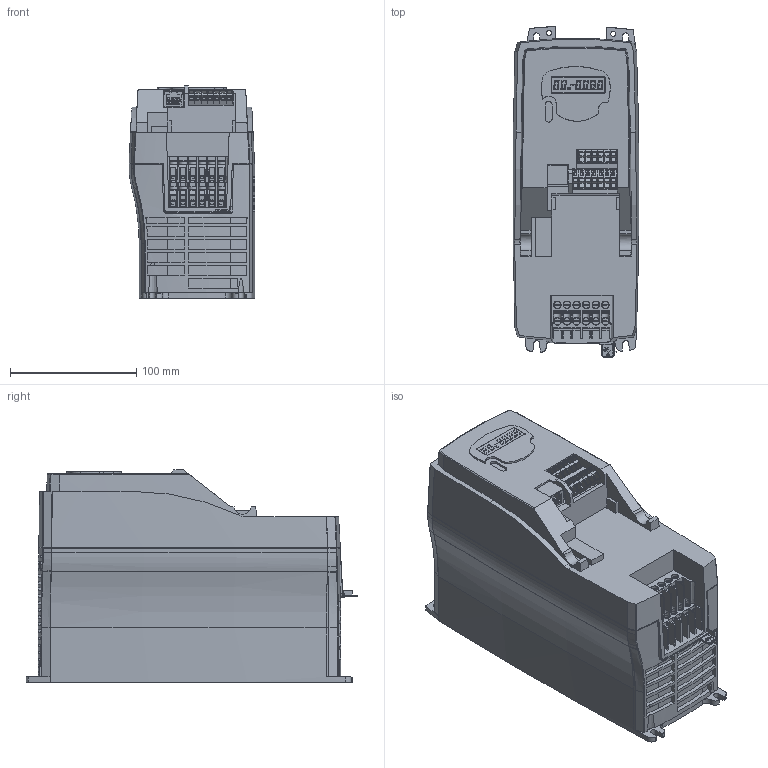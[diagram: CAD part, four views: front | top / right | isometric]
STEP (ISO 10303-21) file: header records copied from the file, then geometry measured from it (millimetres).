
FILE_DESCRIPTION((''),'2;1');
FILE_NAME('PK-SEQ-SK-C-BODY-NO-LOGISTICK','2006-12-19T',('summne01'),(''),'PRO/ENGINEER BY PARAMETRIC TECHNOLOGY CORPORATION, 2006320','PRO/ENGINEER BY PARAMETRIC TECHNOLOGY CORPORATION, 2006320','');
FILE_SCHEMA(('CONFIG_CONTROL_DESIGN'));
Length unit declared in the file: millimetre
Products named in the file (1): PK-SEQ-SK-C-BODY-NO-LOGISTICK
Bounding box: 99.9 x 262.71 x 168.25 mm (x, y, z)
Surface area: 333622.2 mm2 (no closed solid volume)
Topology: 0 solids, 244 shells, 2256 faces, 8961 edges, 6713 vertices
Faces by surface type: plane 1605, cylinder 531, cone 57, bspline 35, torus 25, sphere 3
Entity records: 96594 total; most frequent: CARTESIAN_POINT 25327, ORIENTED_EDGE 13678, DIRECTION 13215, EDGE_CURVE 8961, VERTEX_POINT 6713, VECTOR 6391, LINE 6391, AXIS2_PLACEMENT_3D 3412
